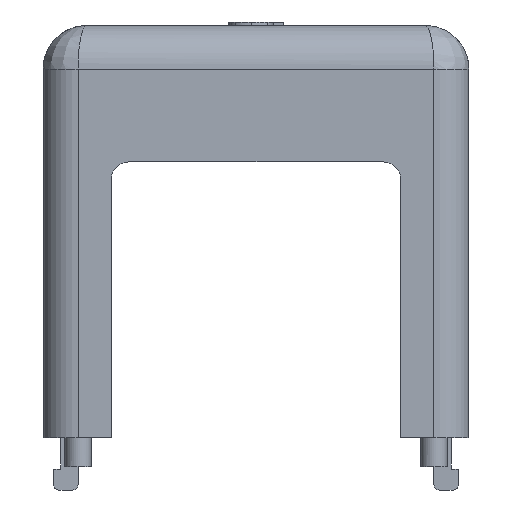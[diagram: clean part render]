
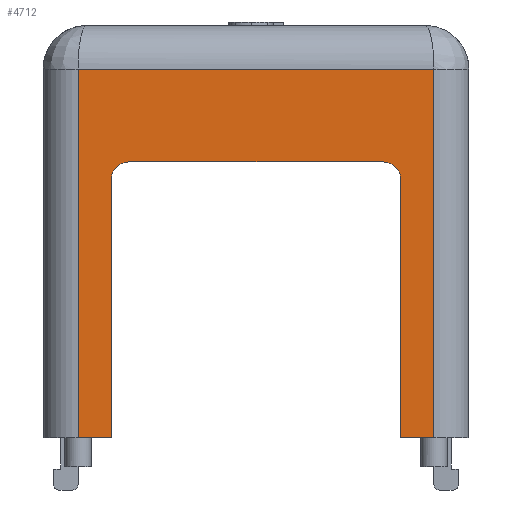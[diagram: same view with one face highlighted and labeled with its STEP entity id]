
A CAD part, left-side view. The second image highlights one B-rep face of the part: STEP entity #4712.
In plain terms, the highlighted planar face has unit normal (-1, 0, 0).
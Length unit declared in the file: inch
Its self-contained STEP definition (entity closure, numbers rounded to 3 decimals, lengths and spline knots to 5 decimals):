
#73=CIRCLE('',#4962,0.05);
#75=CIRCLE('',#4966,0.05);
#433=FACE_OUTER_BOUND('',#703,.T.);
#703=EDGE_LOOP('',(#4060,#4061,#4062,#4063,#4064,#4065,#4066,#4067,#4068,
#4069));
#1240=LINE('',#8205,#1710);
#1245=LINE('',#8215,#1715);
#1274=LINE('',#8284,#1744);
#1278=LINE('',#8296,#1748);
#1282=LINE('',#8307,#1752);
#1287=LINE('',#8317,#1757);
#1288=LINE('',#8319,#1758);
#1289=LINE('',#8320,#1759);
#1710=VECTOR('',#5726,0.3937);
#1715=VECTOR('',#5733,0.3937);
#1744=VECTOR('',#5792,0.3937);
#1748=VECTOR('',#5804,0.3937);
#1752=VECTOR('',#5816,0.3937);
#1757=VECTOR('',#5825,0.3937);
#1758=VECTOR('',#5826,0.3937);
#1759=VECTOR('',#5827,0.3937);
#2182=VERTEX_POINT('',#8202);
#2183=VERTEX_POINT('',#8204);
#2186=VERTEX_POINT('',#8212);
#2187=VERTEX_POINT('',#8214);
#2212=VERTEX_POINT('',#8283);
#2214=VERTEX_POINT('',#8289);
#2216=VERTEX_POINT('',#8295);
#2218=VERTEX_POINT('',#8301);
#2222=VERTEX_POINT('',#8316);
#2223=VERTEX_POINT('',#8318);
#2799=EDGE_CURVE('',#2183,#2182,#1240,.T.);
#2804=EDGE_CURVE('',#2187,#2186,#1245,.T.);
#2839=EDGE_CURVE('',#2212,#2183,#1274,.T.);
#2842=EDGE_CURVE('',#2214,#2212,#73,.T.);
#2845=EDGE_CURVE('',#2216,#2214,#1278,.T.);
#2848=EDGE_CURVE('',#2218,#2216,#75,.T.);
#2851=EDGE_CURVE('',#2186,#2218,#1282,.T.);
#2856=EDGE_CURVE('',#2182,#2222,#1287,.T.);
#2857=EDGE_CURVE('',#2223,#2222,#1288,.T.);
#2858=EDGE_CURVE('',#2187,#2223,#1289,.T.);
#4060=ORIENTED_EDGE('',*,*,#2851,.T.);
#4061=ORIENTED_EDGE('',*,*,#2848,.T.);
#4062=ORIENTED_EDGE('',*,*,#2845,.T.);
#4063=ORIENTED_EDGE('',*,*,#2842,.T.);
#4064=ORIENTED_EDGE('',*,*,#2839,.T.);
#4065=ORIENTED_EDGE('',*,*,#2799,.T.);
#4066=ORIENTED_EDGE('',*,*,#2856,.T.);
#4067=ORIENTED_EDGE('',*,*,#2857,.F.);
#4068=ORIENTED_EDGE('',*,*,#2858,.F.);
#4069=ORIENTED_EDGE('',*,*,#2804,.T.);
#4476=PLANE('',#4970);
#4712=ADVANCED_FACE('',(#433),#4476,.T.);
#4962=AXIS2_PLACEMENT_3D('',#8290,#5797,#5798);
#4966=AXIS2_PLACEMENT_3D('',#8302,#5809,#5810);
#4970=AXIS2_PLACEMENT_3D('',#8315,#5823,#5824);
#5726=DIRECTION('',(0.,-1.,0.));
#5733=DIRECTION('',(0.,-1.,0.));
#5792=DIRECTION('',(0.,0.,-1.));
#5797=DIRECTION('center_axis',(1.,0.,0.));
#5798=DIRECTION('ref_axis',(0.,1.,0.));
#5804=DIRECTION('',(0.,-1.,0.));
#5809=DIRECTION('center_axis',(1.,0.,0.));
#5810=DIRECTION('ref_axis',(0.,0.,-1.));
#5816=DIRECTION('',(0.,0.,1.));
#5823=DIRECTION('center_axis',(-1.,0.,0.));
#5824=DIRECTION('ref_axis',(0.,-1.,0.));
#5825=DIRECTION('',(0.,0.,1.));
#5826=DIRECTION('',(0.,-1.,0.));
#5827=DIRECTION('',(0.,0.,1.));
#8202=CARTESIAN_POINT('',(-1.73,-0.51,0.));
#8204=CARTESIAN_POINT('',(-1.73,-0.415,0.));
#8205=CARTESIAN_POINT('',(-1.73,0.51,0.));
#8212=CARTESIAN_POINT('',(-1.73,0.415,0.));
#8214=CARTESIAN_POINT('',(-1.73,0.51,0.));
#8215=CARTESIAN_POINT('',(-1.73,0.51,0.));
#8283=CARTESIAN_POINT('',(-1.73,-0.415,0.74));
#8284=CARTESIAN_POINT('',(-1.73,-0.415,0.37));
#8289=CARTESIAN_POINT('',(-1.73,-0.365,0.79));
#8290=CARTESIAN_POINT('Origin',(-1.73,-0.365,0.74));
#8295=CARTESIAN_POINT('',(-1.73,0.365,0.79));
#8296=CARTESIAN_POINT('',(-1.73,0.4375,0.79));
#8301=CARTESIAN_POINT('',(-1.73,0.415,0.74));
#8302=CARTESIAN_POINT('Origin',(-1.73,0.365,0.74));
#8307=CARTESIAN_POINT('',(-1.73,0.415,0.));
#8315=CARTESIAN_POINT('Origin',(-1.73,0.51,0.));
#8316=CARTESIAN_POINT('',(-1.73,-0.51,1.0561));
#8317=CARTESIAN_POINT('',(-1.73,-0.51,0.));
#8318=CARTESIAN_POINT('',(-1.73,0.51,1.0561));
#8319=CARTESIAN_POINT('',(-1.73,0.255,1.0561));
#8320=CARTESIAN_POINT('',(-1.73,0.51,0.));
